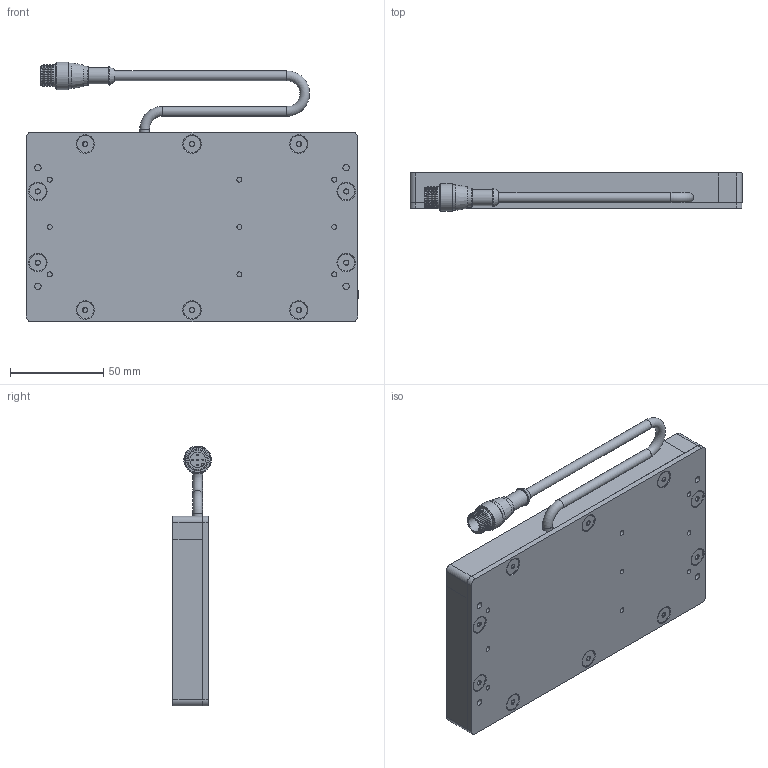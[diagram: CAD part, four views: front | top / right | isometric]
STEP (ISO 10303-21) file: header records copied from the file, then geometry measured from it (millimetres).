
FILE_DESCRIPTION (( 'STEP AP214' ), '1' );
FILE_NAME ('SBL36-XXX-WDC.STEP', '2026-04-17T18:37:52', ( '' ), ( '' ), 'SwSTEP 2.0', 'SolidWorks 2025', '' );
FILE_SCHEMA (( 'AUTOMOTIVE_DESIGN' ));
Length unit declared in the file: inch
Products named in the file (11): 8-32 x 0.375 FHCS (92210A192)_92210A192; SBL3 to 18in rail_03in rail; BackPlate BLYYXX_0306; SC Pigtail Complete 18_5pin; M12 Connector 4,5 and 8 pin_RS4.5T; SBL3 to 18in rail_06in No CG; SBL3 to 18in rail_06in rail; WD-SBLYYXX_3x6; MC Pigtail 24; Hex Standoff .375 x 8-32; SBL36-XXX-WDC
Assembly tree (29 placements, depth 3):
  SBL36-XXX-WDC
    BackPlate BLYYXX_0306
    SBL3 to 18in rail_06in rail
    SBL3 to 18in rail_06in No CG
    SBL3 to 18in rail_03in rail  x2
    SC Pigtail Complete 18_5pin
      MC Pigtail 24
      M12 Connector 4,5 and 8 pin_RS4.5T
    WD-SBLYYXX_3x6
    Hex Standoff .375 x 8-32  x10
    8-32 x 0.375 FHCS (92210A192)_92210A192  x10
Bounding box: 177.8 x 20.74 x 139.13 mm (x, y, z)
Volume: 194654.2 mm3; surface area: 121413.6 mm2
Topology: 28 solids, 28 shells, 733 faces, 1701 edges, 1045 vertices
Faces by surface type: plane 295, cylinder 211, cone 169, bspline 30, torus 23, sphere 5
Full cylindrical faces by diameter (mm): 0.762 x5, 2.705 x9, 3.454 x14, 4.496 x20, 5.207 x3, 6.604 x8, 6.858 x10, 8.382 x1, 8.636 x1, 9.119 x10, 10.16 x1, 10.541 x1, 11.938 x1, 13.716 x2, 14.732 x1
Entity records: 13287 total; most frequent: CARTESIAN_POINT 3673, DIRECTION 1791, ORIENTED_EDGE 1438, AXIS2_PLACEMENT_3D 734, EDGE_CURVE 719, EDGE_LOOP 549, VERTEX_POINT 528, FACE_OUTER_BOUND 416
